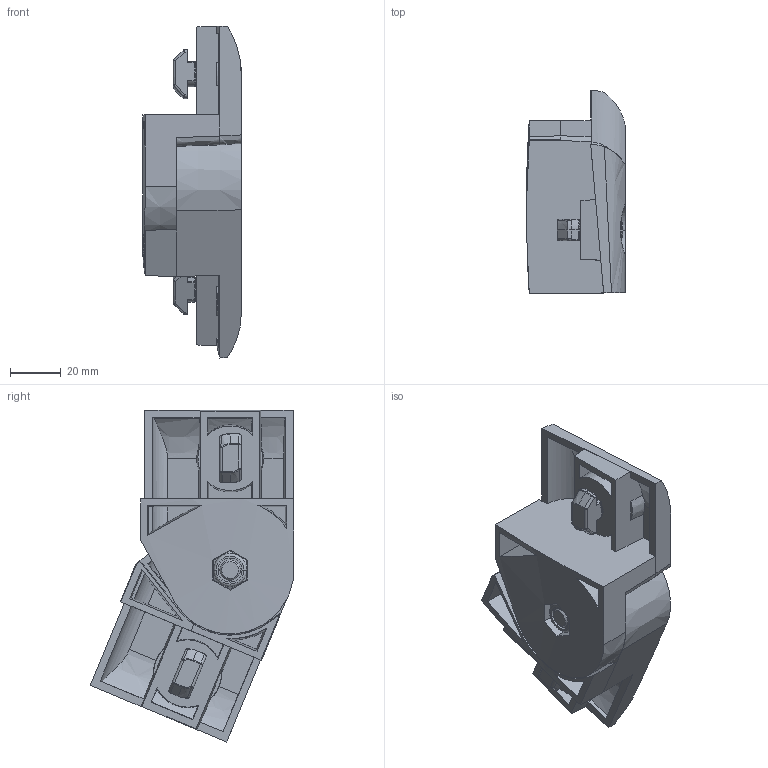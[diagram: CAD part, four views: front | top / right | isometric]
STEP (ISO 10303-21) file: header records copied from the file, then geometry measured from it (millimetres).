
FILE_DESCRIPTION (( 'STEP AP214' ), '1' );
FILE_NAME ('067RCB1COU003.STEP', '2024-09-23T11:16:59', ( '' ), ( '' ), 'SwSTEP 2.0', 'SolidWorks 2023', '' );
FILE_SCHEMA (( 'AUTOMOTIVE_DESIGN' ));
Length unit declared in the file: millimetre
Products named in the file (10): 067RCB1COU003; 067RCB1COS003; 4DIN933M08030M_0; 4DIN985M08M_0; 4DIN934M08MS01; 067RCB1COU003(2); 096HK1030M0820; 067RCB1COU003(1); 4DIN125AM8M; 067RCB1COS004
Assembly tree (13 placements, depth 4):
  067RCB1COU003
    067RCB1COU003(2)
      067RCB1COU003(1)
        067RCB1COS003
        067RCB1COS004
        4DIN125AM8M  x3
        4DIN985M08M_0
        4DIN933M08030M_0
        096HK1030M0820  x2
        4DIN934M08MS01  x2
Bounding box: 38.8 x 80.17 x 130.66 mm (x, y, z)
Volume: 91557 mm3; surface area: 61659.1 mm2
Topology: 11 solids, 11 shells, 798 faces, 2013 edges, 1235 vertices
Faces by surface type: plane 277, cone 234, cylinder 201, bspline 84, torus 2
Entity records: 24663 total; most frequent: CARTESIAN_POINT 10353, ORIENTED_EDGE 3074, DIRECTION 2819, EDGE_CURVE 1537, AXIS2_PLACEMENT_3D 1069, VERTEX_POINT 956, LINE 681, VECTOR 681
